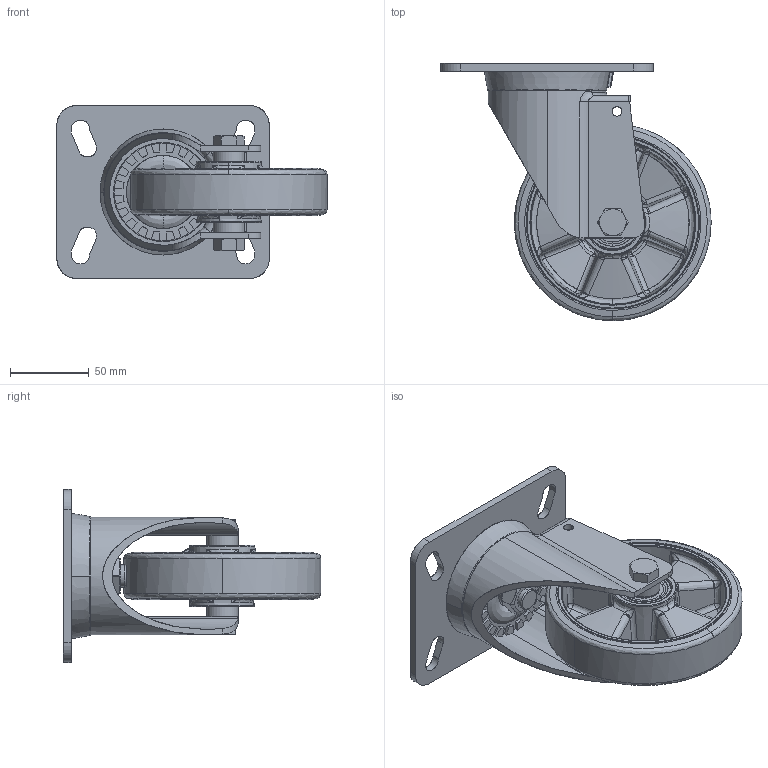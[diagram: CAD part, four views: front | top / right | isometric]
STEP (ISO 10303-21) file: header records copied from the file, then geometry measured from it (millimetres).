
FILE_DESCRIPTION(('STEP AP203'),'2;1');
FILE_NAME('25859_CL.stp','2010-04-30T10:21:12',(''),(''),'2009.1.108','THINKDESIGN','');
FILE_SCHEMA(('CONFIG_CONTROL_DESIGN'));
Length unit declared in the file: millimetre
Bounding box: 171.8 x 163.5 x 110 mm (x, y, z)
Volume: 87978.5 mm3; surface area: 161432.3 mm2
Topology: 6 solids, 6 shells, 622 faces, 3057 edges, 2946 vertices
Faces by surface type: bspline 351, plane 164, cylinder 107
Full cylindrical faces by diameter (mm): 8.5 x1, 10 x1, 11 x1, 15 x1, 16 x2, 20 x2
Entity records: 62790 total; most frequent: CARTESIAN_POINT 50154, COMPOSITE_CURVE_SEGMENT 2839, DIRECTION 1980, B_SPLINE_CURVE_WITH_KNOTS 1461, TRIMMED_CURVE 1013, VECTOR 774, LINE 774, AXIS2_PLACEMENT_3D 603
